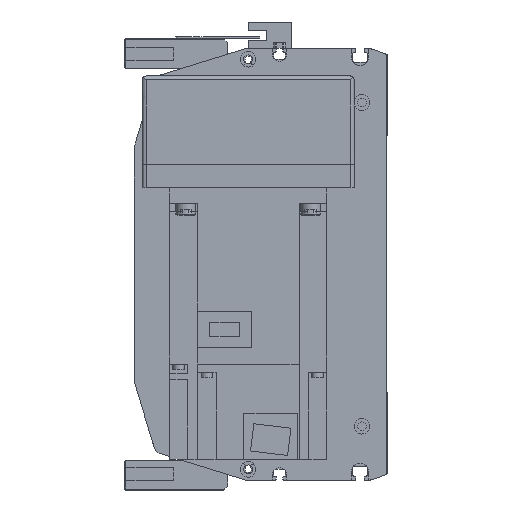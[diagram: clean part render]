
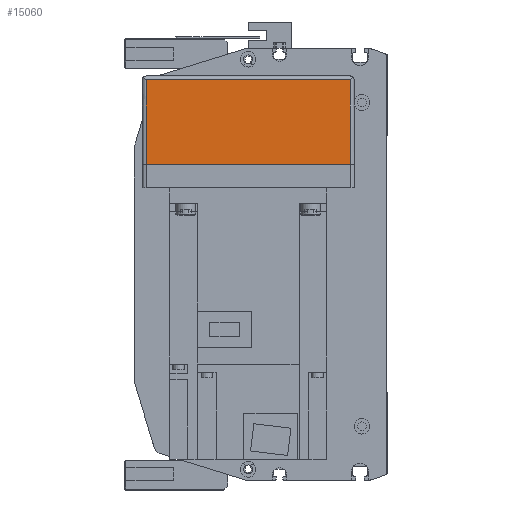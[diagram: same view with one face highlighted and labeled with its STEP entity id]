
A CAD part, left-side view. The second image highlights one B-rep face of the part: STEP entity #15060.
In plain terms, the highlighted planar face has unit normal (-1, 0, 0).
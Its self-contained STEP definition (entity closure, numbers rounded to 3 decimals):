
#2552=ORIENTED_EDGE('',*,*,#6128,.T.);
#2553=ORIENTED_EDGE('',*,*,#6056,.T.);
#2554=ORIENTED_EDGE('',*,*,#6129,.F.);
#2555=ORIENTED_EDGE('',*,*,#6068,.F.);
#6056=EDGE_CURVE('',#7990,#7993,#9552,.T.);
#6068=EDGE_CURVE('',#8000,#8002,#9557,.T.);
#6128=EDGE_CURVE('',#8000,#7990,#9599,.T.);
#6129=EDGE_CURVE('',#8002,#7993,#9600,.T.);
#7990=VERTEX_POINT('',#23431);
#7993=VERTEX_POINT('',#23437);
#8000=VERTEX_POINT('',#23460);
#8002=VERTEX_POINT('',#23463);
#9552=LINE('',#23438,#10905);
#9557=LINE('',#23462,#10910);
#9599=LINE('',#23586,#10952);
#9600=LINE('',#23587,#10953);
#10905=VECTOR('',#18703,1000.);
#10910=VECTOR('',#18730,1000.);
#10952=VECTOR('',#18850,1000.);
#10953=VECTOR('',#18851,1000.);
#12115=EDGE_LOOP('',(#2552,#2553,#2554,#2555));
#13348=FACE_BOUND('',#12115,.T.);
#14419=PLANE('',#16173);
#15060=ADVANCED_FACE('',(#13348),#14419,.T.);
#16173=AXIS2_PLACEMENT_3D('',#23585,#18848,#18849);
#18703=DIRECTION('',(0.,0.,1.));
#18730=DIRECTION('',(0.,0.,1.));
#18848=DIRECTION('',(-1.,0.,0.));
#18849=DIRECTION('',(0.,0.,1.));
#18850=DIRECTION('',(0.,-1.,0.));
#18851=DIRECTION('',(0.,-1.,0.));
#23431=CARTESIAN_POINT('',(-230.,-52.,-55.));
#23437=CARTESIAN_POINT('',(-230.,-52.,-12.));
#23438=CARTESIAN_POINT('',(-230.,-52.,-57.));
#23460=CARTESIAN_POINT('',(-230.,52.,-55.));
#23462=CARTESIAN_POINT('',(-230.,52.,-57.));
#23463=CARTESIAN_POINT('',(-230.,52.,-12.));
#23585=CARTESIAN_POINT('',(-230.,52.,-57.));
#23586=CARTESIAN_POINT('',(-230.,54.,-55.));
#23587=CARTESIAN_POINT('',(-230.,52.,-12.));
